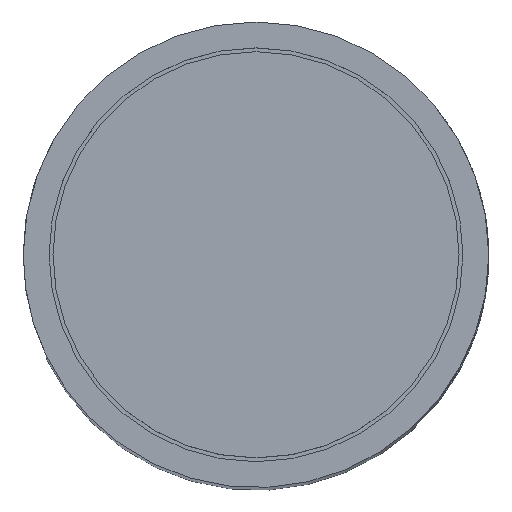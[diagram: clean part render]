
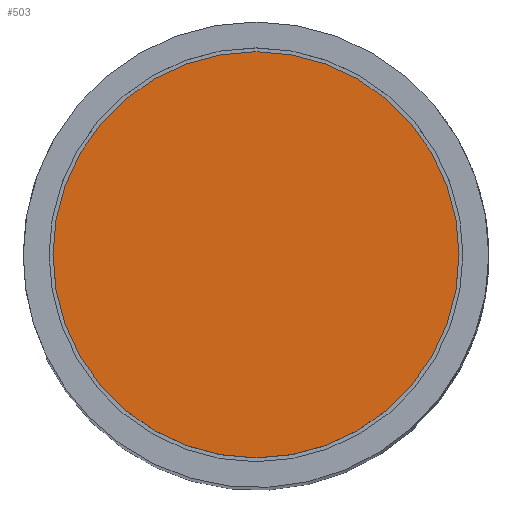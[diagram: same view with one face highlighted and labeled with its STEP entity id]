
A CAD part, top view. The second image highlights one B-rep face of the part: STEP entity #503.
In plain terms, the highlighted planar face has unit normal (0, 0, 1) as drawn and (0, 1, 0) by its records, which use the part's own axes.
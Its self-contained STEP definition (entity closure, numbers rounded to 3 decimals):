
#503=ADVANCED_FACE('22:6',(#1364),#1365,.T.);
#1364=FACE_OUTER_BOUND('',#2629,.T.);
#1365=PLANE('',#2630);
#2629=EDGE_LOOP('',(#4163,#4164));
#2630=AXIS2_PLACEMENT_3D('',#4165,#4166,#4167);
#4163=ORIENTED_EDGE('',*,*,#7837,.F.);
#4164=ORIENTED_EDGE('',*,*,#7838,.F.);
#4165=CARTESIAN_POINT('',(0.,62.47,-0.195));
#4166=DIRECTION('',(0.,1.0,0.));
#4167=DIRECTION('',(0.,0.,-1.0));
#7837=EDGE_CURVE('',#9327,#9328,#9329,.T.);
#7838=EDGE_CURVE('',#9328,#9327,#9330,.T.);
#9327=VERTEX_POINT('',#11483);
#9328=VERTEX_POINT('',#11484);
#9329=CIRCLE('',#11485,7.85);
#9330=CIRCLE('',#11486,7.85);
#11483=CARTESIAN_POINT('',(0.,62.47,7.655));
#11484=CARTESIAN_POINT('',(0.,62.47,-8.045));
#11485=AXIS2_PLACEMENT_3D('',#15627,#15628,#15629);
#11486=AXIS2_PLACEMENT_3D('',#15630,#15631,#15632);
#15627=CARTESIAN_POINT('',(0.,62.47,-0.195));
#15628=DIRECTION('',(0.,-1.0,0.));
#15629=DIRECTION('',(0.,0.,-1.0));
#15630=CARTESIAN_POINT('',(0.,62.47,-0.195));
#15631=DIRECTION('',(0.,-1.0,0.));
#15632=DIRECTION('',(0.,0.,-1.0));
